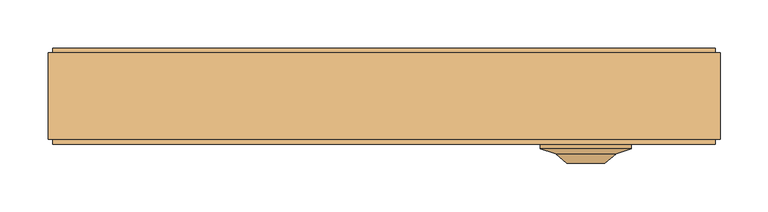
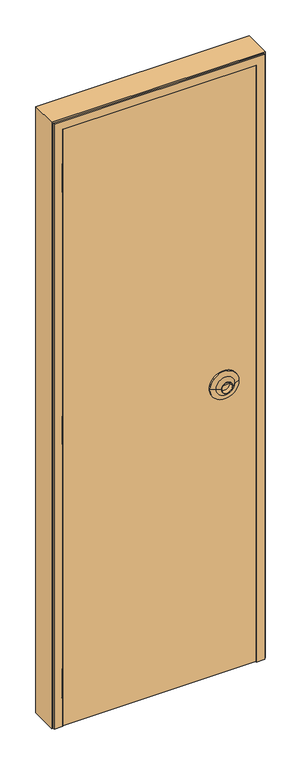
"""IFC4 building model written with IfcOpenShell, lengths in millimetres: door geometry, Puerta contraplacada : Puerta contraplacada 0.7x2.10 m."""

import ifcopenshell
import ifcopenshell.guid

model = None  # the IFC model being written
_history = None  # IfcOwnerHistory: only IFC2X3 demands one
_inside = {}  # id of a spatial element -> (the spatial element, [elements in it])
_under = {}  # id of a project, library or spatial element -> (it, [spatial elements below it])
_declared = {}  # id of a project -> (the project, [libraries it declares])
_typed = {}  # id of a type object -> (the type object, [elements of that type])
_made_of = {}  # id of a material, layer set ... -> (it, [elements and type objects made of it])


def new_model(schema):
    """Start an empty IFC model of exactly this schema.

    Asked for "IFC4X3", IfcOpenShell would pick the latest addendum, in which some entities
    have other attributes; the version numbers below select the first issue.
    IFC2X3 requires an IfcOwnerHistory on every rooted entity: one is made here for all.
    """
    global model, _history
    if schema == "IFC4X3":
        model = ifcopenshell.file(schema_version=(4, 3, 0, 0))
    else:
        model = ifcopenshell.file(schema=schema)
    _inside.clear()
    _under.clear()
    _declared.clear()
    _typed.clear()
    _made_of.clear()
    _history = None
    if model.schema == "IFC2X3":
        org = make("IfcOrganization", Name="unknown")
        user = make(
            "IfcPersonAndOrganization",
            ThePerson=make("IfcPerson", FamilyName="unknown"),
            TheOrganization=org,
        )
        app = make(
            "IfcApplication",
            ApplicationDeveloper=org,
            Version="unknown",
            ApplicationFullName="unknown",
            ApplicationIdentifier="unknown",
        )
        _history = make(
            "IfcOwnerHistory",
            OwningUser=user,
            OwningApplication=app,
            ChangeAction="ADDED",
            CreationDate=0,
        )
    return model


def make(cls, **values):
    """One entity of the class cls with the attributes given. An attribute that is None is left unset."""
    return model.create_entity(
        cls, **{name: value for name, value in values.items() if value is not None}
    )


def rooted(cls, **values):
    """An entity with a GlobalId (a new one), such as an element, a storey or a relation."""
    return make(cls, GlobalId=ifcopenshell.guid.new(), OwnerHistory=_history, **values)


def si_unit(unit_type, name, prefix=None):
    """IfcSIUnit, for example si_unit("LENGTHUNIT", "METRE", prefix="MILLI")."""
    return make("IfcSIUnit", UnitType=unit_type, Prefix=prefix, Name=name)


def assignment(units):
    """IfcUnitAssignment: the units of a project."""
    return None if units is None else make("IfcUnitAssignment", Units=units)


def point(xyz):
    """IfcCartesianPoint."""
    return None if xyz is None else make("IfcCartesianPoint", Coordinates=xyz)


def direction(xyz):
    """IfcDirection."""
    return None if xyz is None else make("IfcDirection", DirectionRatios=xyz)


def frame(location, z_axis=None, x_axis=None):
    """IfcAxis2Placement3D, a coordinate frame: its origin and axes. An axis left out is left unset."""
    return make(
        "IfcAxis2Placement3D",
        Location=point(location),
        Axis=direction(z_axis),
        RefDirection=direction(x_axis),
    )


def origin():
    """The frame at (0, 0, 0) with its axes left unset."""
    return frame((0.0, 0.0, 0.0))


def place(relative_to, where):
    """IfcLocalPlacement: puts the frame where relative to a parent placement (None: the world)."""
    return make(
        "IfcLocalPlacement", PlacementRelTo=relative_to, RelativePlacement=where
    )


def context(
    kind, dimensions, precision=None, world=None, true_north=None, identifier=None
):
    """IfcGeometricRepresentationContext, for example the 3D "Model" context."""
    return make(
        "IfcGeometricRepresentationContext",
        ContextIdentifier=identifier,
        ContextType=kind,
        CoordinateSpaceDimension=dimensions,
        Precision=precision,
        WorldCoordinateSystem=world,
        TrueNorth=true_north,
    )


def project(units=None, contexts=None):
    """IfcProject with its units and contexts."""
    return rooted(
        "IfcProject",
        Name="project",
        RepresentationContexts=contexts,
        UnitsInContext=assignment(units),
    )


def spatial(cls, under=None, at=None, **own):
    """A site, building, storey or space (cls), placed at a placement, below another one or the project."""
    s = rooted(cls, ObjectPlacement=at, **own)
    if under is not None:
        _under.setdefault(under.id(), (under, []))[1].append(s)
    return s


def polyline(points):
    """IfcPolyline through the points."""
    return make("IfcPolyline", Points=[point(p) for p in points])


def circle_curve(where, radius):
    """IfcCircle in the frame where."""
    return make("IfcCircle", Position=where, Radius=radius)


def outline(outer, holes=None, kind="AREA"):
    """IfcArbitraryClosedProfileDef: a profile drawn as a closed curve; with holes, ...WithVoids."""
    if holes is None:
        return make("IfcArbitraryClosedProfileDef", ProfileType=kind, OuterCurve=outer)
    return make(
        "IfcArbitraryProfileDefWithVoids",
        ProfileType=kind,
        OuterCurve=outer,
        InnerCurves=holes,
    )


def extrude(swept, where, along, depth):
    """IfcExtrudedAreaSolid: the profile swept, set in the frame where, extruded along a direction by depth."""
    return make(
        "IfcExtrudedAreaSolid",
        SweptArea=swept,
        Position=where,
        ExtrudedDirection=direction(along),
        Depth=depth,
    )


def faces_of(points, faces, orient=None, outer=None):
    """IfcFace entities. A face is a list of loops; a loop is a list of indices into points, from 0.

    orient and outer hold one flag for each loop. By default every Orientation is true, the
    first loop of a face is its IfcFaceOuterBound and the others are IfcFaceBound.
    """
    made = []
    for i, loops in enumerate(faces):
        bounds = []
        for j, loop in enumerate(loops):
            is_outer = j == 0 if outer is None else outer[i][j]
            bounds.append(
                make(
                    "IfcFaceOuterBound" if is_outer else "IfcFaceBound",
                    Bound=make("IfcPolyLoop", Polygon=[points[k] for k in loop]),
                    Orientation=True if orient is None else orient[i][j],
                )
            )
        made.append(make("IfcFace", Bounds=bounds))
    return made


def faceted_brep(points, faces, orient=None, outer=None, voids=None):
    """IfcFacetedBrep: a solid bounded by flat faces; with voids (closed shells), ...WithVoids."""
    shared = [point(p) for p in points]
    hull = make("IfcClosedShell", CfsFaces=faces_of(shared, faces, orient, outer))
    if voids is None:
        return make("IfcFacetedBrep", Outer=hull)
    return make(
        "IfcFacetedBrepWithVoids",
        Outer=hull,
        Voids=[
            make(cls, CfsFaces=faces_of(shared, fs, o, b)) for cls, fs, o, b in voids
        ],
    )


def shape(context_of_items, identifier, shape_type, items):
    """IfcShapeRepresentation: the items that make up one representation, for example the "Body"."""
    return make(
        "IfcShapeRepresentation",
        ContextOfItems=context_of_items,
        RepresentationIdentifier=identifier,
        RepresentationType=shape_type,
        Items=items,
    )


def source(mapping_origin, context_of_items, identifier, shape_type, items):
    """IfcRepresentationMap: a shape defined once, which mapped items show again and again."""
    return make(
        "IfcRepresentationMap",
        MappingOrigin=mapping_origin,
        MappedRepresentation=shape(context_of_items, identifier, shape_type, items),
    )


def transform(
    local_origin,
    x_axis=None,
    y_axis=None,
    z_axis=None,
    scale=None,
    scale2=None,
    scale3=None,
    uniform=True,
):
    """IfcCartesianTransformationOperator3D, or its non-uniform kind. x_axis, y_axis, z_axis: its Axis1, 2, 3."""
    if uniform:
        return make(
            "IfcCartesianTransformationOperator3D",
            Axis1=direction(x_axis),
            Axis2=direction(y_axis),
            LocalOrigin=point(local_origin),
            Scale=scale,
            Axis3=direction(z_axis),
        )
    return make(
        "IfcCartesianTransformationOperator3DnonUniform",
        Axis1=direction(x_axis),
        Axis2=direction(y_axis),
        LocalOrigin=point(local_origin),
        Scale=scale,
        Axis3=direction(z_axis),
        Scale2=scale2,
        Scale3=scale3,
    )


def mapped(mapping_source, mapping_target):
    """IfcMappedItem: shows the shape of a source again, moved by a transform."""
    return make(
        "IfcMappedItem", MappingSource=mapping_source, MappingTarget=mapping_target
    )


def made_of(thing, what):
    """Note that an element or type object is made of a material, layer set ...; save() writes the relation."""
    if what is not None:
        _made_of.setdefault(what.id(), (what, []))[1].append(thing)
    return thing


def element(
    cls,
    number,
    at=None,
    inside=None,
    cuts=None,
    type_object=None,
    material=None,
    context=None,
    identifier="Body",
    shape_type=None,
    held_by="IfcProductDefinitionShape",
    body=None,
    shapes=None,
    **own,
):
    """One element of the class cls, such as IfcWall. Its Tag is "e" and its number.

    at: its placement. inside: the storey or other place that contains it. cuts: it is an
    opening in that element (IfcRelVoidsElement). A single representation is given by context,
    identifier, shape_type and body (its items); several are given by shapes. held_by: the class
    of the entity that holds the representations. save() writes the other relations.
    """
    e = rooted(cls, Tag="e%d" % number, ObjectPlacement=at, **own)
    if body is not None:
        shapes = [shape(context, identifier, shape_type, body)]
    if shapes is not None:
        e.Representation = make(held_by, Representations=shapes)
    if inside is not None:
        _inside.setdefault(inside.id(), (inside, []))[1].append(e)
    if cuts is not None:
        rooted(
            "IfcRelVoidsElement", RelatingBuildingElement=cuts, RelatedOpeningElement=e
        )
    if type_object is not None:
        _typed.setdefault(type_object.id(), (type_object, []))[1].append(e)
    return made_of(e, material)


def aggregate(whole, parts):
    """IfcRelAggregates: a whole, such as a stair, and the parts it consists of."""
    return rooted("IfcRelAggregates", RelatingObject=whole, RelatedObjects=parts)


def save(model, path):
    """Write the relations noted so far, then the file.

    IfcRelAggregates (storeys below a building ...), IfcRelContainedInSpatialStructure (elements
    in a storey), IfcRelDefinesByType, IfcRelAssociatesMaterial and IfcRelDeclares: one each for
    every whole, place, type object, material and project.
    """
    for whole, parts in _under.values():
        aggregate(whole, parts)
    for where, things in _inside.values():
        rooted(
            "IfcRelContainedInSpatialStructure",
            RelatedElements=things,
            RelatingStructure=where,
        )
    for kind, things in _typed.values():
        rooted("IfcRelDefinesByType", RelatedObjects=things, RelatingType=kind)
    for what, things in _made_of.values():
        rooted("IfcRelAssociatesMaterial", RelatedObjects=things, RelatingMaterial=what)
    for by, libraries in _declared.values():
        rooted("IfcRelDeclares", RelatingContext=by, RelatedDefinitions=libraries)
    model.write(path)


def plane_surface(at):
    """IfcPlane: the flat surface through the origin of the frame at, square to its z axis."""
    return make("IfcPlane", Position=at)


def cylinder_surface(at, radius):
    """IfcCylindricalSurface: all points at the distance radius from the z axis of the frame at."""
    return make("IfcCylindricalSurface", Position=at, Radius=radius)


def revolved_surface(curve, axis_point, axis_direction):
    """IfcSurfaceOfRevolution: the curve turned about the line through axis_point along axis_direction."""
    return make(
        "IfcSurfaceOfRevolution",
        SweptCurve=make("IfcArbitraryOpenProfileDef", ProfileType="CURVE", Curve=curve),
        AxisPosition=make("IfcAxis1Placement", Location=point(axis_point), Axis=direction(axis_direction)),
    )


def advanced_brep(points, edges, surfaces, faces):
    """IfcAdvancedBrep: a solid bounded by faces that lie on surfaces and meet in shared edges.

    An edge is (start, end): straight between two places in points (the first is 0);
    or (start, end, curve); or (start, end, curve, False) where it runs against its curve.
    A face is (place in surfaces, loops), or (place, loops, False) where it looks against
    its surface's normal. A loop lists edges by number (the first is 1), with a minus sign
    where the edge is run from its end to its start. The first loop is the outer one.
    """
    corners = [point(p) for p in points]
    vertices = [make("IfcVertexPoint", VertexGeometry=c) for c in corners]
    made = []
    for start, end, *more in edges:
        made.append(
            make(
                "IfcEdgeCurve",
                EdgeStart=vertices[start],
                EdgeEnd=vertices[end],
                EdgeGeometry=more[0] if more else make("IfcPolyline", Points=[corners[start], corners[end]]),
                SameSense=more[1] if len(more) > 1 else True,
            )
        )
    hull = []
    for where, loops, *sense in faces:
        bounds = []
        for j, loop in enumerate(loops):
            ring = [make("IfcOrientedEdge", EdgeElement=made[abs(k) - 1], Orientation=k > 0) for k in loop]
            bounds.append(
                make(
                    "IfcFaceOuterBound" if j == 0 else "IfcFaceBound",
                    Bound=make("IfcEdgeLoop", EdgeList=ring),
                    Orientation=True,
                )
            )
        hull.append(make("IfcAdvancedFace", Bounds=bounds, FaceSurface=surfaces[where], SameSense=sense[0] if sense else True))
    return make("IfcAdvancedBrep", Outer=make("IfcClosedShell", CfsFaces=hull))


def door_cacd1893(model_context):
    return source(origin(), model_context, "Body", "SolidModel", [
        advanced_brep(
        [(257.78125, -55.0, 1000.0), (257.78125, -50.0, 1000.0), (162.78125, -50.0, 1000.0), (162.78125, -55.0, 1000.0), (241.78125, -60.0, 1000.0), (178.78125, -60.0, 1000.0), (229.9828812, -70.0, 1000.0), (190.5796188, -70.0, 1000.0), (228.1741787, -70.0, 1000.0), (192.3883213, -70.0, 1000.0), (228.1741787, -55.0, 1000.0), (192.3883213, -55.0, 1000.0), (210.28125, -55.0, 1000.0), (210.28125, -50.0, 1000.0)],
        [
            (0, 1),
            (1, 2, circle_curve(frame((210.28125, -50.0, 1000.0), z_axis=(0.0, -1.0, 0.0), x_axis=(-1.0, 0.0, 0.0)), 47.5)),
            (2, 3),
            (3, 0, circle_curve(frame((210.28125, -55.0, 1000.0), z_axis=(0.0, 1.0, 0.0), x_axis=(-1.0, 0.0, 0.0)), 47.5)),
            (2, 1, circle_curve(frame((210.28125, -50.0, 1000.0), z_axis=(0.0, -1.0, 0.0), x_axis=(-1.0, 0.0, 0.0)), 47.5)),
            (0, 3, circle_curve(frame((210.28125, -55.0, 1000.0), z_axis=(0.0, 1.0, 0.0), x_axis=(-1.0, 0.0, 0.0)), 47.5)),
            (4, 0),
            (3, 5),
            (5, 4, circle_curve(frame((210.28125, -60.0, 1000.0), z_axis=(0.0, 1.0, 0.0), x_axis=(-1.0, 0.0, 0.0)), 31.5)),
            (4, 5, circle_curve(frame((210.28125, -60.0, 1000.0), z_axis=(0.0, 1.0, 0.0), x_axis=(-1.0, 0.0, 0.0)), 31.5)),
            (6, 4),
            (5, 7),
            (7, 6, circle_curve(frame((210.28125, -70.0, 1000.0), z_axis=(0.0, 1.0, 0.0), x_axis=(-1.0, 0.0, 0.0)), 19.7016312)),
            (6, 7, circle_curve(frame((210.28125, -70.0, 1000.0), z_axis=(0.0, 1.0, 0.0), x_axis=(-1.0, 0.0, 0.0)), 19.7016312)),
            (8, 6),
            (7, 9),
            (9, 8, circle_curve(frame((210.28125, -70.0, 1000.0), z_axis=(0.0, 1.0, 0.0), x_axis=(-1.0, 0.0, 0.0)), 17.8929287)),
            (8, 9, circle_curve(frame((210.28125, -70.0, 1000.0), z_axis=(0.0, 1.0, 0.0), x_axis=(-1.0, 0.0, 0.0)), 17.8929287)),
            (10, 8),
            (9, 11),
            (11, 10, circle_curve(frame((210.28125, -55.0, 1000.0), z_axis=(0.0, 1.0, 0.0), x_axis=(-1.0, 0.0, 0.0)), 17.8929287)),
            (10, 11, circle_curve(frame((210.28125, -55.0, 1000.0), z_axis=(0.0, 1.0, 0.0), x_axis=(-1.0, 0.0, 0.0)), 17.8929287)),
            (12, 10),
            (11, 12),
            (1, 13),
            (13, 2),
        ],
        [
            cylinder_surface(frame((210.28125, -50.0, 1000.0), z_axis=(0.0, -1.0, 0.0), x_axis=(-1.0, 0.0, 0.0)), 47.5),
            revolved_surface(polyline([(162.78125, -55.0, 1000.0), (178.78125, -60.0, 1000.0)]), (210.28125, -50.0, 1000.0), (0.0, -1.0, 0.0)),
            revolved_surface(polyline([(178.78125, -60.0, 1000.0), (190.5796188, -70.0, 1000.0)]), (210.28125, -50.0, 1000.0), (0.0, -1.0, 0.0)),
            plane_surface(frame((210.28125, -70.0, 1000.0), z_axis=(0.0, -1.0, 0.0), x_axis=(-1.0, 0.0, 0.0))),
            revolved_surface(polyline([(192.3883213, -70.0, 1000.0), (192.3883213, -55.0, 1000.0)]), (210.28125, -50.0, 1000.0), (0.0, -1.0, 0.0)),
            plane_surface(frame((210.28125, -55.0, 1000.0), z_axis=(0.0, -1.0, 0.0), x_axis=(-1.0, 0.0, 0.0))),
            plane_surface(frame((210.28125, -50.0, 1000.0), z_axis=(0.0, 1.0, 0.0), x_axis=(-1.0, 0.0, 0.0))),
        ],
        [
            (0, [[1, 2, 3, 4]]),
            (0, [[-3, 5, -1, 6]]),
            (1, [[7, -4, 8, 9]]),
            (1, [[-8, -6, -7, 10]]),
            (2, [[11, -9, 12, 13]]),
            (2, [[-12, -10, -11, 14]]),
            (3, [[15, -13, 16, 17]]),
            (3, [[-16, -14, -15, 18]]),
            (4, [[19, -17, 20, 21]]),
            (4, [[-20, -18, -19, 22]]),
            (5, [[23, -21, 24]]),
            (5, [[-24, -22, -23]]),
            (6, [[25, 26, -2]]),
            (6, [[-26, -25, -5]]),
        ],
    ),
        faceted_brep([(350.0, -45.0, 0.0), (345.0, -45.0, 0.0), (345.0, -50.0, 0.0), (317.0, -50.0, 0.0), (317.0, 0.0, 0.0), (300.0, 0.0, 0.0), (300.0, 50.0, 0.0), (345.0, 50.0, 0.0), (345.0, 45.0, 0.0), (350.0, 45.0, 0.0), (350.0, 45.0, 2100.0), (350.0, -45.0, 2100.0), (345.0, 45.0, 2095.0), (-345.0, 45.0, 2095.0), (-345.0, 45.0, 0.0), (-350.0, 45.0, 0.0), (-350.0, 45.0, 2100.0), (345.0, 50.0, 2095.0), (300.0, 50.0, 2050.0), (-300.0, 50.0, 2050.0), (-300.0, 50.0, 0.0), (-345.0, 50.0, 0.0), (-345.0, 50.0, 2095.0), (300.0, 0.0, 2050.0), (317.0, 0.0, 2067.0), (-317.0, 0.0, 2067.0), (-317.0, 0.0, 0.0), (-300.0, 0.0, 0.0), (-300.0, 0.0, 2050.0), (317.0, -50.0, 2067.0), (345.0, -50.0, 2095.0), (-345.0, -50.0, 2095.0), (-345.0, -50.0, 0.0), (-317.0, -50.0, 0.0), (-317.0, -50.0, 100.0349265), (-319.0, -50.0, 100.0349265), (-319.0, -50.0, 200.0349265), (-317.0, -50.0, 200.0349265), (-317.0, -50.0, 975.0174632), (-319.0, -50.0, 975.0174632), (-319.0, -50.0, 1075.0174632), (-317.0, -50.0, 1075.0174632), (-317.0, -50.0, 1850.0), (-319.0, -50.0, 1850.0), (-319.0, -50.0, 1950.0), (-317.0, -50.0, 1950.0), (-317.0, -50.0, 2067.0), (345.0, -45.0, 2095.0), (-350.0, -45.0, 2100.0), (-350.0, -45.0, 0.0), (-345.0, -45.0, 0.0), (-345.0, -45.0, 2095.0), (-317.0, -7.5, 1950.0), (-317.0, -7.5, 1850.0), (-317.0, -7.5, 1075.0174632), (-317.0, -7.5, 975.0174632), (-317.0, -7.5, 200.0349265), (-317.0, -7.5, 100.0349265), (-319.0, -7.5, 100.0349265), (-319.0, -7.5, 200.0349265), (-319.0, -7.5, 975.0174632), (-319.0, -7.5, 1075.0174632), (-319.0, -7.5, 1950.0), (-319.0, -7.5, 1850.0)], [[[0, 1, 2, 3, 4, 5, 6, 7, 8, 9]], [[9, 10, 11, 0]], [[8, 12, 13, 14, 15, 16, 10, 9]], [[7, 17, 12, 8]], [[6, 18, 19, 20, 21, 22, 17, 7]], [[5, 23, 18, 6]], [[4, 24, 25, 26, 27, 28, 23, 5]], [[3, 29, 24, 4]], [[2, 30, 31, 32, 33, 34, 35, 36, 37, 38, 39, 40, 41, 42, 43, 44, 45, 46, 29, 3]], [[1, 47, 30, 2]], [[0, 11, 48, 49, 50, 51, 47, 1]], [[15, 14, 21, 20, 27, 26, 33, 32, 50, 49]], [[16, 15, 49, 48]], [[51, 50, 32, 31]], [[46, 45, 52, 53, 42, 41, 54, 55, 38, 37, 56, 57, 34, 33, 26, 25]], [[28, 27, 20, 19]], [[22, 21, 14, 13]], [[58, 35, 34, 57]], [[58, 57, 56, 59]], [[56, 37, 36, 59]], [[60, 39, 38, 55]], [[60, 55, 54, 61]], [[54, 41, 40, 61]], [[61, 40, 39, 60]], [[59, 36, 35, 58]], [[10, 16, 48, 11]], [[23, 28, 19, 18]], [[29, 46, 25, 24]], [[17, 22, 13, 12]], [[47, 51, 31, 30]], [[62, 44, 43, 63]], [[62, 52, 45, 44]], [[63, 53, 52, 62]], [[43, 42, 53, 63]]]),
        extrude(outline(polyline([(-317.0, -1.803125), (-317.0, 0.0), (317.0, 0.0), (317.0, -1.803125), (-317.0, -1.803125)])), frame((0.0, 0.0, 2.5), z_axis=(0.0, 0.0, 1.0), x_axis=(1.0, 0.0, 0.0)), (0.0, 0.0, 1.0), 2064.5),
        extrude(outline(polyline([(317.0, -48.203125), (317.0, -50.0), (-317.0, -50.0), (-317.0, -48.203125), (317.0, -48.203125)])), frame((0.0, 0.0, 2.5), z_axis=(0.0, 0.0, 1.0), x_axis=(1.0, 0.0, 0.0)), (0.0, 0.0, 1.0), 2064.5),
        extrude(outline(polyline([(242.0, -1.803125), (242.0, -48.203125), (-242.0, -48.203125), (-242.0, -1.803125), (242.0, -1.803125)])), frame((0.0, 0.0, 987.5174632), z_axis=(0.0, 0.0, 1.0), x_axis=(1.0, 0.0, 0.0)), (0.0, 0.0, 1.0), 75.0),
        extrude(outline(polyline([(2.5, 317.0), (2067.0, 317.0), (2067.0, -317.0), (2.5, -317.0), (2.5, 317.0)]), holes=[polyline([(1992.0, 242.0), (77.5, 242.0), (77.5, -242.0), (1992.0, -242.0), (1992.0, 242.0)])]), frame((0.0, -48.203125, 0.0), z_axis=(0.0, 1.0, 0.0), x_axis=(0.0, 0.0, 1.0)), (0.0, 0.0, 1.0), 46.4),
    ])


if __name__ == "__main__":
    model = new_model("IFC4")
    model_context = context("Model", 3, world=origin())
    ifc_project = project(units=[si_unit("LENGTHUNIT", "METRE", prefix="MILLI")], contexts=[model_context])
    site = spatial("IfcSite", under=ifc_project)
    building = spatial("IfcBuilding", under=site)
    placement = place(None, origin())
    door_shape = door_cacd1893(model_context)
    element("IfcDoor", 1, ObjectType="Puerta contraplacada : Puerta contraplacada 0.7x2.10 m", at=placement, inside=building, context=model_context, shape_type="MappedRepresentation", body=[
        mapped(door_shape, transform((0.0, 0.0, 0.0), x_axis=(1.0, 0.0, 0.0), y_axis=(0.0, 1.0, 0.0), z_axis=(0.0, 0.0, 1.0))),
    ])
    save(model, "model.ifc")
